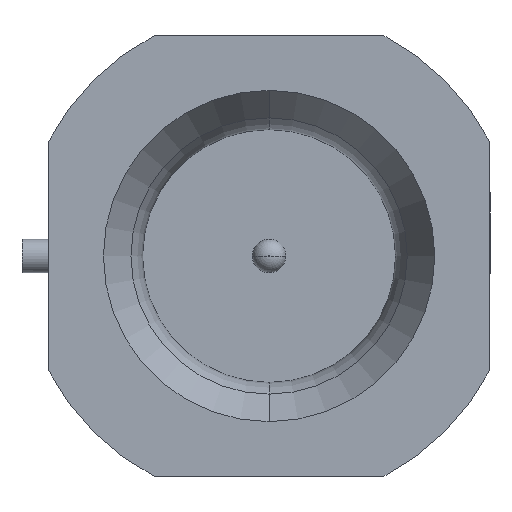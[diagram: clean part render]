
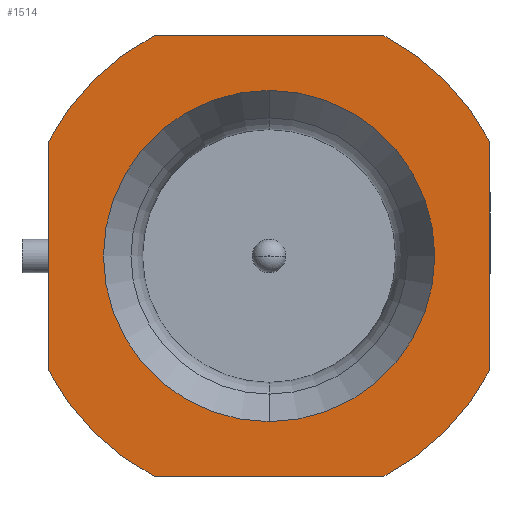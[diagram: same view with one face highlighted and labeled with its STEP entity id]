
A CAD part, left-side view. The second image highlights one B-rep face of the part: STEP entity #1514.
In plain terms, the highlighted planar face has unit normal (-1, 0, 0).
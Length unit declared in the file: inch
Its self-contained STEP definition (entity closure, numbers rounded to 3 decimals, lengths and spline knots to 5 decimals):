
#8 = LINE ( 'NONE', #1933, #833 ) ;
#15 = VERTEX_POINT ( 'NONE', #1837 ) ;
#64 = ORIENTED_EDGE ( 'NONE', *, *, #936, .F. ) ;
#70 = CARTESIAN_POINT ( 'NONE',  ( 0., 0., 0. ) ) ;
#78 = DIRECTION ( 'NONE',  ( -1., 0., 0. ) ) ;
#95 = CARTESIAN_POINT ( 'NONE',  ( 0., 0., 0.057 ) ) ;
#99 = AXIS2_PLACEMENT_3D ( 'NONE', #855, #1772, #1340 ) ;
#143 = VERTEX_POINT ( 'NONE', #569 ) ;
#150 = AXIS2_PLACEMENT_3D ( 'NONE', #510, #1412, #1872 ) ;
#176 = PLANE ( 'NONE',  #1512 ) ;
#200 = CIRCLE ( 'NONE', #347, 0.0855 ) ;
#206 = AXIS2_PLACEMENT_3D ( 'NONE', #1476, #78, #861 ) ;
#229 = VERTEX_POINT ( 'NONE', #249 ) ;
#249 = CARTESIAN_POINT ( 'NONE',  ( 0., 0.076, -0.03917 ) ) ;
#258 = DIRECTION ( 'NONE',  ( 0., 1., 0. ) ) ;
#274 = ORIENTED_EDGE ( 'NONE', *, *, #1263, .T. ) ;
#344 = VECTOR ( 'NONE', #393, 39.37008 ) ;
#347 = AXIS2_PLACEMENT_3D ( 'NONE', #1853, #939, #1728 ) ;
#393 = DIRECTION ( 'NONE',  ( 0., -1., 0. ) ) ;
#400 = CIRCLE ( 'NONE', #1176, 0.0855 ) ;
#403 = LINE ( 'NONE', #1917, #344 ) ;
#406 = CIRCLE ( 'NONE', #150, 0.0855 ) ;
#410 = VERTEX_POINT ( 'NONE', #1248 ) ;
#460 = EDGE_LOOP ( 'NONE', ( #1617, #274, #64, #1855, #720, #1481, #539, #489 ) ) ;
#474 = EDGE_CURVE ( 'NONE', #410, #1072, #1836, .T. ) ;
#489 = ORIENTED_EDGE ( 'NONE', *, *, #474, .T. ) ;
#500 = DIRECTION ( 'NONE',  ( 1., 0., 0. ) ) ;
#510 = CARTESIAN_POINT ( 'NONE',  ( 0., 0., 0. ) ) ;
#519 = DIRECTION ( 'NONE',  ( 0., 0., 1. ) ) ;
#525 = ORIENTED_EDGE ( 'NONE', *, *, #1018, .F. ) ;
#530 = CARTESIAN_POINT ( 'NONE',  ( 0., 0., -0.057 ) ) ;
#539 = ORIENTED_EDGE ( 'NONE', *, *, #1119, .F. ) ;
#545 = EDGE_CURVE ( 'NONE', #15, #1590, #200, .T. ) ;
#546 = CARTESIAN_POINT ( 'NONE',  ( 0., -0.076, -0.03917 ) ) ;
#569 = CARTESIAN_POINT ( 'NONE',  ( 0., 0.076, 0.03917 ) ) ;
#581 = VECTOR ( 'NONE', #710, 39.37008 ) ;
#594 = CIRCLE ( 'NONE', #206, 0.057 ) ;
#599 = FACE_BOUND ( 'NONE', #1896, .T. ) ;
#649 = DIRECTION ( 'NONE',  ( -1., 0., 0. ) ) ;
#667 = VERTEX_POINT ( 'NONE', #973 ) ;
#710 = DIRECTION ( 'NONE',  ( 0., 0., -1. ) ) ;
#720 = ORIENTED_EDGE ( 'NONE', *, *, #1139, .F. ) ;
#805 = EDGE_CURVE ( 'NONE', #1383, #1133, #594, .T. ) ;
#833 = VECTOR ( 'NONE', #258, 39.37008 ) ;
#855 = CARTESIAN_POINT ( 'NONE',  ( 0., 0., 0. ) ) ;
#861 = DIRECTION ( 'NONE',  ( 0., 0., 1. ) ) ;
#918 = VECTOR ( 'NONE', #519, 39.37008 ) ;
#936 = EDGE_CURVE ( 'NONE', #229, #143, #1321, .T. ) ;
#939 = DIRECTION ( 'NONE',  ( -1., 0., 0. ) ) ;
#970 = LINE ( 'NONE', #1784, #581 ) ;
#973 = CARTESIAN_POINT ( 'NONE',  ( 0., 0.03917, 0.076 ) ) ;
#995 = FACE_OUTER_BOUND ( 'NONE', #460, .T. ) ;
#1003 = DIRECTION ( 'NONE',  ( -1., 0., 0. ) ) ;
#1018 = EDGE_CURVE ( 'NONE', #1133, #1383, #1223, .T. ) ;
#1038 = ORIENTED_EDGE ( 'NONE', *, *, #805, .F. ) ;
#1039 = CARTESIAN_POINT ( 'NONE',  ( 0., 0.03917, -0.076 ) ) ;
#1072 = VERTEX_POINT ( 'NONE', #1638 ) ;
#1119 = EDGE_CURVE ( 'NONE', #410, #1590, #970, .T. ) ;
#1133 = VERTEX_POINT ( 'NONE', #95 ) ;
#1139 = EDGE_CURVE ( 'NONE', #15, #1986, #8, .T. ) ;
#1176 = AXIS2_PLACEMENT_3D ( 'NONE', #1299, #1003, #1583 ) ;
#1223 = CIRCLE ( 'NONE', #99, 0.057 ) ;
#1248 = CARTESIAN_POINT ( 'NONE',  ( 0., -0.076, 0.03917 ) ) ;
#1263 = EDGE_CURVE ( 'NONE', #667, #143, #400, .T. ) ;
#1299 = CARTESIAN_POINT ( 'NONE',  ( 0., 0., 0. ) ) ;
#1321 = LINE ( 'NONE', #1739, #918 ) ;
#1340 = DIRECTION ( 'NONE',  ( 0., 0., 1. ) ) ;
#1383 = VERTEX_POINT ( 'NONE', #530 ) ;
#1404 = CARTESIAN_POINT ( 'NONE',  ( 0., 0.057, 0. ) ) ;
#1412 = DIRECTION ( 'NONE',  ( -1., 0., 0. ) ) ;
#1432 = EDGE_CURVE ( 'NONE', #229, #1986, #406, .T. ) ;
#1476 = CARTESIAN_POINT ( 'NONE',  ( 0., 0., 0. ) ) ;
#1481 = ORIENTED_EDGE ( 'NONE', *, *, #545, .T. ) ;
#1512 = AXIS2_PLACEMENT_3D ( 'NONE', #1404, #500, #1556 ) ;
#1514 = ADVANCED_FACE ( 'NONE', ( #599, #995 ), #176, .F. ) ;
#1545 = EDGE_CURVE ( 'NONE', #667, #1072, #403, .T. ) ;
#1556 = DIRECTION ( 'NONE',  ( 0., 0., -1. ) ) ;
#1557 = DIRECTION ( 'NONE',  ( 0., 0., 1. ) ) ;
#1583 = DIRECTION ( 'NONE',  ( 0., 0., 1. ) ) ;
#1590 = VERTEX_POINT ( 'NONE', #546 ) ;
#1614 = AXIS2_PLACEMENT_3D ( 'NONE', #70, #649, #1557 ) ;
#1617 = ORIENTED_EDGE ( 'NONE', *, *, #1545, .F. ) ;
#1638 = CARTESIAN_POINT ( 'NONE',  ( 0., -0.03917, 0.076 ) ) ;
#1728 = DIRECTION ( 'NONE',  ( 0., 0., 1. ) ) ;
#1739 = CARTESIAN_POINT ( 'NONE',  ( 0., 0.076, 0. ) ) ;
#1772 = DIRECTION ( 'NONE',  ( -1., 0., 0. ) ) ;
#1784 = CARTESIAN_POINT ( 'NONE',  ( 0., -0.076, 0. ) ) ;
#1836 = CIRCLE ( 'NONE', #1614, 0.0855 ) ;
#1837 = CARTESIAN_POINT ( 'NONE',  ( 0., -0.03917, -0.076 ) ) ;
#1853 = CARTESIAN_POINT ( 'NONE',  ( 0., 0., 0. ) ) ;
#1855 = ORIENTED_EDGE ( 'NONE', *, *, #1432, .T. ) ;
#1872 = DIRECTION ( 'NONE',  ( 0., 0., 1. ) ) ;
#1896 = EDGE_LOOP ( 'NONE', ( #525, #1038 ) ) ;
#1917 = CARTESIAN_POINT ( 'NONE',  ( 0., 0.057, 0.076 ) ) ;
#1933 = CARTESIAN_POINT ( 'NONE',  ( 0., 0.057, -0.076 ) ) ;
#1986 = VERTEX_POINT ( 'NONE', #1039 ) ;
